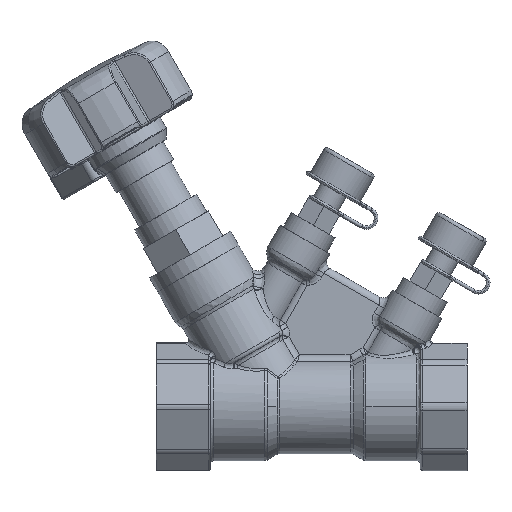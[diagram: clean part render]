
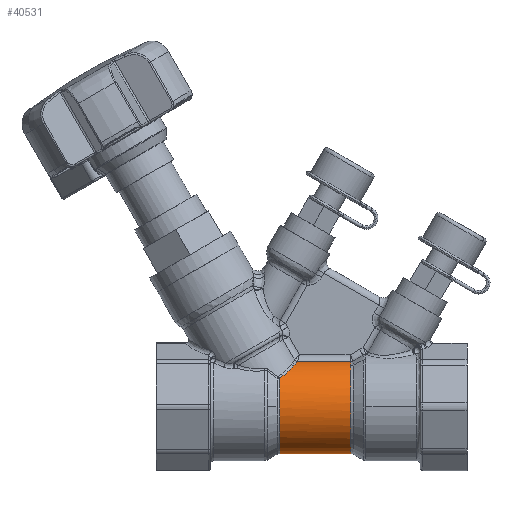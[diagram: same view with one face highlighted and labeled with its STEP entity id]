
A CAD part, left-side view. The second image highlights one B-rep face of the part: STEP entity #40531.
In plain terms, the highlighted cylindrical face has radius 13 mm (diameter 26 mm), a partial arc.
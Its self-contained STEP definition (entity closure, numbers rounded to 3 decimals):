
#160 = EDGE_CURVE ( 'NONE', #10984, #19631, #35859, .T. ) ;
#607 = CARTESIAN_POINT ( 'NONE',  ( -4.985, 47.641, 12.013 ) ) ;
#949 = CARTESIAN_POINT ( 'NONE',  ( 0., 52.098, 0. ) ) ;
#1474 = EDGE_CURVE ( 'NONE', #10322, #34677, #10258, .T. ) ;
#2703 = CARTESIAN_POINT ( 'NONE',  ( -9.179, 50.38, 9.237 ) ) ;
#2735 = ORIENTED_EDGE ( 'NONE', *, *, #3904, .F. ) ;
#3833 = CARTESIAN_POINT ( 'NONE',  ( -4.242, 47.393, 12.298 ) ) ;
#3904 = EDGE_CURVE ( 'NONE', #19761, #29534, #9200, .T. ) ;
#4016 = CARTESIAN_POINT ( 'NONE',  ( -3.482, 32.402, 12.525 ) ) ;
#4032 = VERTEX_POINT ( 'NONE', #23603 ) ;
#4865 = B_SPLINE_CURVE_WITH_KNOTS ( 'NONE', 5,
 ( #31577, #18723, #21988, #2703, #25245, #5926, #28494, #9176, #31724 ),
 .UNSPECIFIED., .F., .F.,
 ( 6, 3, 6 ),
 ( 0., 0.589, 1. ),
 .UNSPECIFIED. ) ;
#5834 = EDGE_CURVE ( 'NONE', #29534, #10984, #30706, .T. ) ;
#5926 = CARTESIAN_POINT ( 'NONE',  ( -7.484, 48.897, 10.645 ) ) ;
#5975 = AXIS2_PLACEMENT_3D ( 'NONE', #37773, #37898, #35210 ) ;
#6114 = CARTESIAN_POINT ( 'NONE',  ( -5.945, 48.039, 11.565 ) ) ;
#6139 = CARTESIAN_POINT ( 'NONE',  ( -3.467, 32.402, 12.529 ) ) ;
#6570 = CARTESIAN_POINT ( 'NONE',  ( -5.342, 47.784, 11.852 ) ) ;
#6711 = CARTESIAN_POINT ( 'NONE',  ( -6.233, 48.182, 11.409 ) ) ;
#7070 = CARTESIAN_POINT ( 'NONE',  ( -3.467, 47.196, 12.529 ) ) ;
#7222 = ORIENTED_EDGE ( 'NONE', *, *, #8509, .T. ) ;
#8322 = CARTESIAN_POINT ( 'NONE',  ( -3.467, 47.196, 12.529 ) ) ;
#8509 = EDGE_CURVE ( 'NONE', #4032, #15455, #11462, .T. ) ;
#9176 = CARTESIAN_POINT ( 'NONE',  ( -6.669, 48.4, 11.17 ) ) ;
#9200 = B_SPLINE_CURVE_WITH_KNOTS ( 'NONE', 5,
 ( #6139, #25457, #28704, #9390, #31939, #12618 ),
 .UNSPECIFIED., .F., .F.,
 ( 6, 6 ),
 ( 0., 1. ),
 .UNSPECIFIED. ) ;
#9368 = CARTESIAN_POINT ( 'NONE',  ( -5.648, 47.906, 11.714 ) ) ;
#9390 = CARTESIAN_POINT ( 'NONE',  ( -3.476, 32.402, 12.527 ) ) ;
#9577 = LINE ( 'NONE', #27753, #25714 ) ;
#10258 = B_SPLINE_CURVE_WITH_KNOTS ( 'NONE', 3,
 ( #31909, #6114, #9368, #12598 ),
 .UNSPECIFIED., .F., .F.,
 ( 4, 4 ),
 ( 0., 1. ),
 .UNSPECIFIED. ) ;
#10322 = VERTEX_POINT ( 'NONE', #6711 ) ;
#10648 = DIRECTION ( 'NONE',  ( 0., 0., -1. ) ) ;
#10984 = VERTEX_POINT ( 'NONE', #13284 ) ;
#11462 = CIRCLE ( 'NONE', #27775, 13. ) ;
#11516 = ORIENTED_EDGE ( 'NONE', *, *, #160, .F. ) ;
#12598 = CARTESIAN_POINT ( 'NONE',  ( -5.342, 47.784, 11.852 ) ) ;
#12618 = CARTESIAN_POINT ( 'NONE',  ( -3.482, 32.402, 12.525 ) ) ;
#13284 = CARTESIAN_POINT ( 'NONE',  ( -6.233, 32.402, 11.409 ) ) ;
#14777 = DIRECTION ( 'NONE',  ( 0., -1., 0. ) ) ;
#15138 = DIRECTION ( 'NONE',  ( 0., -1., 0. ) ) ;
#15455 = VERTEX_POINT ( 'NONE', #21563 ) ;
#16009 = DIRECTION ( 'NONE',  ( 0., -1., 0. ) ) ;
#17017 = B_SPLINE_CURVE_WITH_KNOTS ( 'NONE', 5,
 ( #19873, #607, #23131, #3833, #26387, #7070 ),
 .UNSPECIFIED., .F., .F.,
 ( 6, 6 ),
 ( 0., 1. ),
 .UNSPECIFIED. ) ;
#18723 = CARTESIAN_POINT ( 'NONE',  ( -9.946, 51.47, 8.385 ) ) ;
#19305 = CARTESIAN_POINT ( 'NONE',  ( -3.467, 32.402, 12.529 ) ) ;
#19631 = VERTEX_POINT ( 'NONE', #24831 ) ;
#19664 = AXIS2_PLACEMENT_3D ( 'NONE', #949, #36304, #10648 ) ;
#19761 = VERTEX_POINT ( 'NONE', #19305 ) ;
#19873 = CARTESIAN_POINT ( 'NONE',  ( -5.342, 47.784, 11.852 ) ) ;
#20011 = VERTEX_POINT ( 'NONE', #8322 ) ;
#21563 = CARTESIAN_POINT ( 'NONE',  ( 0., 52.098, -13. ) ) ;
#21988 = CARTESIAN_POINT ( 'NONE',  ( -9.589, 50.899, 8.805 ) ) ;
#23131 = CARTESIAN_POINT ( 'NONE',  ( -4.618, 47.511, 12.162 ) ) ;
#23603 = CARTESIAN_POINT ( 'NONE',  ( -10.244, 52.098, 8.004 ) ) ;
#24208 = AXIS2_PLACEMENT_3D ( 'NONE', #34087, #14777, #37323 ) ;
#24389 = DIRECTION ( 'NONE',  ( 0., -1., 0. ) ) ;
#24831 = CARTESIAN_POINT ( 'NONE',  ( 0., 32.402, -13. ) ) ;
#25245 = CARTESIAN_POINT ( 'NONE',  ( -8.399, 49.576, 9.963 ) ) ;
#25457 = CARTESIAN_POINT ( 'NONE',  ( -3.47, 32.402, 12.528 ) ) ;
#25714 = VECTOR ( 'NONE', #24389, 1000. ) ;
#26387 = CARTESIAN_POINT ( 'NONE',  ( -3.858, 47.288, 12.421 ) ) ;
#27753 = CARTESIAN_POINT ( 'NONE',  ( -3.467, 40.267, 12.529 ) ) ;
#27775 = AXIS2_PLACEMENT_3D ( 'NONE', #35327, #16009, #38569 ) ;
#28494 = CARTESIAN_POINT ( 'NONE',  ( -7.087, 48.638, 10.915 ) ) ;
#28704 = CARTESIAN_POINT ( 'NONE',  ( -3.473, 32.402, 12.528 ) ) ;
#29534 = VERTEX_POINT ( 'NONE', #4016 ) ;
#30573 = ORIENTED_EDGE ( 'NONE', *, *, #35194, .F. ) ;
#30706 = CIRCLE ( 'NONE', #24208, 13. ) ;
#30866 = EDGE_CURVE ( 'NONE', #15455, #19631, #34797, .T. ) ;
#31184 = ORIENTED_EDGE ( 'NONE', *, *, #5834, .F. ) ;
#31411 = EDGE_CURVE ( 'NONE', #20011, #19761, #9577, .T. ) ;
#31577 = CARTESIAN_POINT ( 'NONE',  ( -10.244, 52.098, 8.004 ) ) ;
#31724 = CARTESIAN_POINT ( 'NONE',  ( -6.233, 48.182, 11.409 ) ) ;
#31909 = CARTESIAN_POINT ( 'NONE',  ( -6.233, 48.182, 11.409 ) ) ;
#31939 = CARTESIAN_POINT ( 'NONE',  ( -3.479, 32.402, 12.526 ) ) ;
#32362 = ORIENTED_EDGE ( 'NONE', *, *, #31411, .F. ) ;
#33228 = FACE_OUTER_BOUND ( 'NONE', #40500, .T. ) ;
#34087 = CARTESIAN_POINT ( 'NONE',  ( 0., 32.402, 0. ) ) ;
#34677 = VERTEX_POINT ( 'NONE', #6570 ) ;
#34797 = LINE ( 'NONE', #37681, #40333 ) ;
#35194 = EDGE_CURVE ( 'NONE', #34677, #20011, #17017, .T. ) ;
#35210 = DIRECTION ( 'NONE',  ( -0.479, 0., 0.878 ) ) ;
#35327 = CARTESIAN_POINT ( 'NONE',  ( 0., 52.098, 0. ) ) ;
#35466 = ORIENTED_EDGE ( 'NONE', *, *, #30866, .T. ) ;
#35859 = CIRCLE ( 'NONE', #5975, 13. ) ;
#36304 = DIRECTION ( 'NONE',  ( 0., -1., 0. ) ) ;
#37323 = DIRECTION ( 'NONE',  ( -0.267, 0., 0.964 ) ) ;
#37681 = CARTESIAN_POINT ( 'NONE',  ( 0., 52.098, -13. ) ) ;
#37773 = CARTESIAN_POINT ( 'NONE',  ( 0., 32.402, 0. ) ) ;
#37898 = DIRECTION ( 'NONE',  ( 0., -1., 0. ) ) ;
#38520 = ORIENTED_EDGE ( 'NONE', *, *, #1474, .F. ) ;
#38569 = DIRECTION ( 'NONE',  ( -0.788, 0., 0.616 ) ) ;
#39218 = EDGE_CURVE ( 'NONE', #4032, #10322, #4865, .T. ) ;
#40333 = VECTOR ( 'NONE', #15138, 1000. ) ;
#40500 = EDGE_LOOP ( 'NONE', ( #7222, #35466, #11516, #31184, #2735, #32362, #30573, #38520, #40625 ) ) ;
#40531 = ADVANCED_FACE ( 'NONE', ( #33228 ), #40754, .T. ) ;
#40625 = ORIENTED_EDGE ( 'NONE', *, *, #39218, .F. ) ;
#40754 = CYLINDRICAL_SURFACE ( 'NONE', #19664, 13. ) ;
